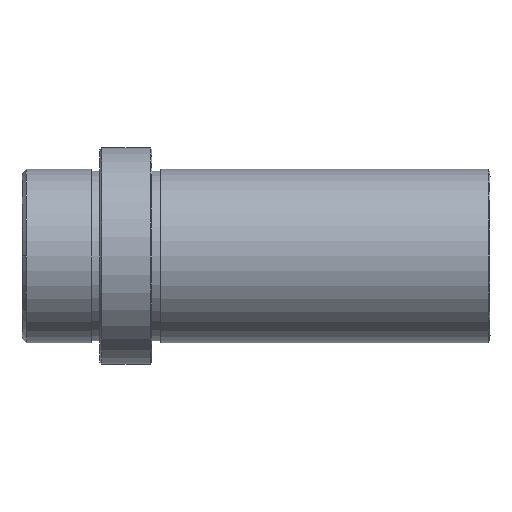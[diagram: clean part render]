
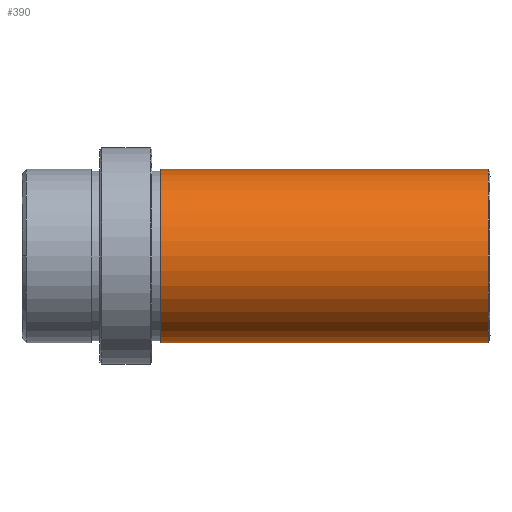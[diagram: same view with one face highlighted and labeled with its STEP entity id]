
A CAD part, front view. The second image highlights one B-rep face of the part: STEP entity #390.
In plain terms, the highlighted cylindrical face has radius 10 mm (diameter 20 mm), a partial arc.
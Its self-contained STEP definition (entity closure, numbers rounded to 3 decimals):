
#11 = CARTESIAN_POINT ( 'NONE',  ( -0.9, 60., 78. ) ) ;
#59 = CARTESIAN_POINT ( 'NONE',  ( -19.8, 60., 78. ) ) ;
#79 = CIRCLE ( 'NONE', #626, 10. ) ;
#80 = CIRCLE ( 'NONE', #658, 10. ) ;
#119 = VERTEX_POINT ( 'NONE', #606 ) ;
#150 = CIRCLE ( 'NONE', #566, 10. ) ;
#159 = LINE ( 'NONE', #470, #945 ) ;
#175 = VERTEX_POINT ( 'NONE', #720 ) ;
#243 = EDGE_CURVE ( 'NONE', #583, #907, #80, .T. ) ;
#245 = DIRECTION ( 'NONE',  ( 1., 0., 0. ) ) ;
#248 = CARTESIAN_POINT ( 'NONE',  ( -38.7, 60., 68. ) ) ;
#304 = VERTEX_POINT ( 'NONE', #524 ) ;
#313 = CARTESIAN_POINT ( 'NONE',  ( -38.7, 60., 78. ) ) ;
#322 = EDGE_LOOP ( 'NONE', ( #629, #664, #461, #341, #1026 ) ) ;
#326 = FACE_OUTER_BOUND ( 'NONE', #322, .T. ) ;
#340 = VECTOR ( 'NONE', #506, 1000. ) ;
#341 = ORIENTED_EDGE ( 'NONE', *, *, #515, .T. ) ;
#357 = CARTESIAN_POINT ( 'NONE',  ( -19.8, 60., 88. ) ) ;
#390 = ADVANCED_FACE ( 'NONE', ( #326 ), #849, .T. ) ;
#454 = DIRECTION ( 'NONE',  ( 0., 1., 0. ) ) ;
#461 = ORIENTED_EDGE ( 'NONE', *, *, #904, .F. ) ;
#467 = DIRECTION ( 'NONE',  ( -1., 0., 0. ) ) ;
#470 = CARTESIAN_POINT ( 'NONE',  ( -19.8, 60., 68. ) ) ;
#506 = DIRECTION ( 'NONE',  ( -1., 0., 0. ) ) ;
#515 = EDGE_CURVE ( 'NONE', #175, #583, #735, .T. ) ;
#524 = CARTESIAN_POINT ( 'NONE',  ( -0.9, 60., 68. ) ) ;
#562 = DIRECTION ( 'NONE',  ( 0., 1., 0. ) ) ;
#566 = AXIS2_PLACEMENT_3D ( 'NONE', #952, #1028, #618 ) ;
#583 = VERTEX_POINT ( 'NONE', #652 ) ;
#606 = CARTESIAN_POINT ( 'NONE',  ( -0.9, 50., 78. ) ) ;
#612 = DIRECTION ( 'NONE',  ( -1., 0., 0. ) ) ;
#615 = DIRECTION ( 'NONE',  ( 1., 0., 0. ) ) ;
#618 = DIRECTION ( 'NONE',  ( 0., 1., 0. ) ) ;
#626 = AXIS2_PLACEMENT_3D ( 'NONE', #11, #245, #562 ) ;
#629 = ORIENTED_EDGE ( 'NONE', *, *, #697, .F. ) ;
#652 = CARTESIAN_POINT ( 'NONE',  ( -38.7, 60., 88. ) ) ;
#653 = AXIS2_PLACEMENT_3D ( 'NONE', #59, #612, #927 ) ;
#658 = AXIS2_PLACEMENT_3D ( 'NONE', #313, #615, #454 ) ;
#664 = ORIENTED_EDGE ( 'NONE', *, *, #710, .F. ) ;
#697 = EDGE_CURVE ( 'NONE', #304, #907, #159, .T. ) ;
#710 = EDGE_CURVE ( 'NONE', #119, #304, #150, .T. ) ;
#720 = CARTESIAN_POINT ( 'NONE',  ( -0.9, 60., 88. ) ) ;
#735 = LINE ( 'NONE', #357, #340 ) ;
#849 = CYLINDRICAL_SURFACE ( 'NONE', #653, 10. ) ;
#904 = EDGE_CURVE ( 'NONE', #175, #119, #79, .T. ) ;
#907 = VERTEX_POINT ( 'NONE', #248 ) ;
#927 = DIRECTION ( 'NONE',  ( 0., 0., 1. ) ) ;
#945 = VECTOR ( 'NONE', #467, 1000. ) ;
#952 = CARTESIAN_POINT ( 'NONE',  ( -0.9, 60., 78. ) ) ;
#1026 = ORIENTED_EDGE ( 'NONE', *, *, #243, .T. ) ;
#1028 = DIRECTION ( 'NONE',  ( 1., 0., 0. ) ) ;
